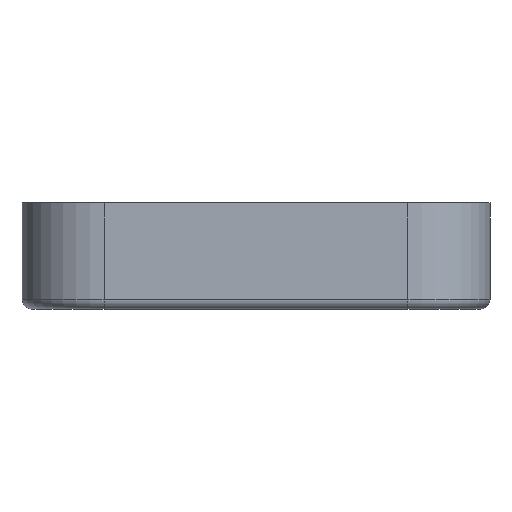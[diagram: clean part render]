
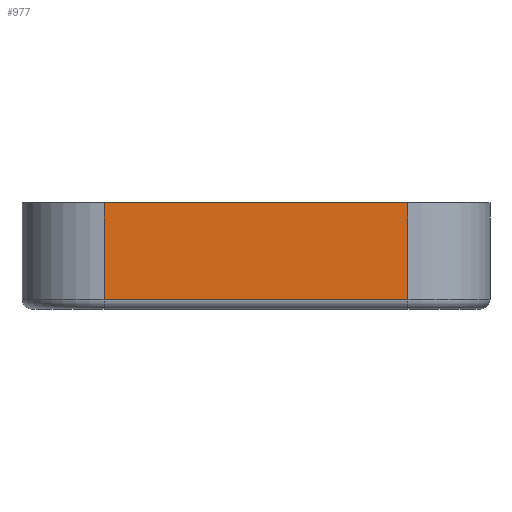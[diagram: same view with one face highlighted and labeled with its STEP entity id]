
A CAD part, left-side view. The second image highlights one B-rep face of the part: STEP entity #977.
In plain terms, the highlighted planar face has unit normal (-1, 0, 0).
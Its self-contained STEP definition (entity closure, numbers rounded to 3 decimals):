
#123=FACE_OUTER_BOUND('',#183,.T.);
#183=EDGE_LOOP('',(#867,#868,#869,#870));
#248=LINE('',#1523,#352);
#284=LINE('',#1634,#388);
#288=LINE('',#1644,#392);
#289=LINE('',#1645,#393);
#352=VECTOR('',#1227,10.);
#388=VECTOR('',#1349,10.);
#392=VECTOR('',#1365,10.);
#393=VECTOR('',#1366,10.);
#440=VERTEX_POINT('',#1515);
#442=VERTEX_POINT('',#1521);
#472=VERTEX_POINT('',#1628);
#474=VERTEX_POINT('',#1632);
#547=EDGE_CURVE('',#442,#440,#248,.T.);
#604=EDGE_CURVE('',#474,#472,#284,.T.);
#608=EDGE_CURVE('',#442,#472,#288,.T.);
#609=EDGE_CURVE('',#440,#474,#289,.T.);
#867=ORIENTED_EDGE('',*,*,#547,.F.);
#868=ORIENTED_EDGE('',*,*,#608,.T.);
#869=ORIENTED_EDGE('',*,*,#604,.F.);
#870=ORIENTED_EDGE('',*,*,#609,.F.);
#920=PLANE('',#1082);
#977=ADVANCED_FACE('',(#123),#920,.T.);
#1082=AXIS2_PLACEMENT_3D('',#1643,#1363,#1364);
#1227=DIRECTION('',(0.,1.,0.));
#1349=DIRECTION('',(0.,-1.,0.));
#1363=DIRECTION('center_axis',(-1.,0.,0.));
#1364=DIRECTION('ref_axis',(0.,-1.,0.));
#1365=DIRECTION('',(0.,0.,1.));
#1366=DIRECTION('',(0.,0.,1.));
#1515=CARTESIAN_POINT('',(0.,80.,2.));
#1521=CARTESIAN_POINT('',(0.,17.,2.));
#1523=CARTESIAN_POINT('',(0.,64.25,2.));
#1628=CARTESIAN_POINT('',(0.,17.,22.));
#1632=CARTESIAN_POINT('',(0.,80.,22.));
#1634=CARTESIAN_POINT('',(0.,80.,22.));
#1643=CARTESIAN_POINT('Origin',(0.,80.,0.));
#1644=CARTESIAN_POINT('',(0.,17.,0.));
#1645=CARTESIAN_POINT('',(0.,80.,0.));
